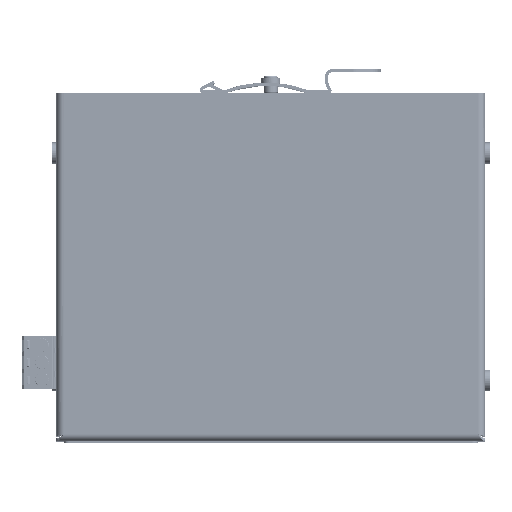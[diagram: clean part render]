
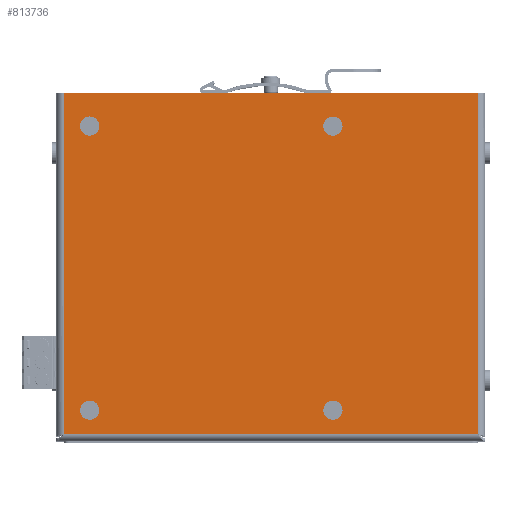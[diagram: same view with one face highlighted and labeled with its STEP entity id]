
A CAD part, top view. The second image highlights one B-rep face of the part: STEP entity #813736.
In plain terms, the highlighted planar face has unit normal (0, 0, 1).
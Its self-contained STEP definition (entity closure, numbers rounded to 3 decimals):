
#49378=FACE_BOUND('',#130745,.T.);
#49379=FACE_BOUND('',#130746,.T.);
#49380=FACE_BOUND('',#130747,.T.);
#49381=FACE_BOUND('',#130748,.T.);
#83209=FACE_OUTER_BOUND('',#130744,.T.);
#130744=EDGE_LOOP('',(#765880,#765881,#765882,#765883));
#130745=EDGE_LOOP('',(#765884));
#130746=EDGE_LOOP('',(#765885));
#130747=EDGE_LOOP('',(#765886));
#130748=EDGE_LOOP('',(#765887));
#191969=CIRCLE('',#959964,2.7);
#191971=CIRCLE('',#959967,2.7);
#191973=CIRCLE('',#959970,2.7);
#191975=CIRCLE('',#959973,2.7);
#265807=LINE('',#1571731,#340001);
#265810=LINE('',#1571741,#340004);
#265813=LINE('',#1571748,#340007);
#265814=LINE('',#1571750,#340008);
#340001=VECTOR('',#1225285,10.);
#340004=VECTOR('',#1225298,10.);
#340007=VECTOR('',#1225309,10.);
#340008=VECTOR('',#1225312,10.);
#466147=VERTEX_POINT('',#1571400);
#466149=VERTEX_POINT('',#1571406);
#466151=VERTEX_POINT('',#1571412);
#466153=VERTEX_POINT('',#1571418);
#466173=VERTEX_POINT('',#1571512);
#466183=VERTEX_POINT('',#1571687);
#466184=VERTEX_POINT('',#1571729);
#466186=VERTEX_POINT('',#1571740);
#602025=EDGE_CURVE('',#466147,#466147,#191969,.T.);
#602028=EDGE_CURVE('',#466149,#466149,#191971,.T.);
#602031=EDGE_CURVE('',#466151,#466151,#191973,.T.);
#602034=EDGE_CURVE('',#466153,#466153,#191975,.T.);
#602099=EDGE_CURVE('',#466183,#466184,#265807,.T.);
#602103=EDGE_CURVE('',#466186,#466173,#265810,.T.);
#602107=EDGE_CURVE('',#466173,#466183,#265813,.T.);
#602108=EDGE_CURVE('',#466186,#466184,#265814,.T.);
#765880=ORIENTED_EDGE('',*,*,#602099,.T.);
#765881=ORIENTED_EDGE('',*,*,#602108,.F.);
#765882=ORIENTED_EDGE('',*,*,#602103,.T.);
#765883=ORIENTED_EDGE('',*,*,#602107,.T.);
#765884=ORIENTED_EDGE('',*,*,#602025,.T.);
#765885=ORIENTED_EDGE('',*,*,#602028,.T.);
#765886=ORIENTED_EDGE('',*,*,#602031,.T.);
#765887=ORIENTED_EDGE('',*,*,#602034,.T.);
#779693=PLANE('',#960017);
#813736=ADVANCED_FACE('',(#83209,#49378,#49379,#49380,#49381),#779693,.T.);
#959964=AXIS2_PLACEMENT_3D('',#1571401,#1225148,#1225149);
#959967=AXIS2_PLACEMENT_3D('',#1571407,#1225155,#1225156);
#959970=AXIS2_PLACEMENT_3D('',#1571413,#1225162,#1225163);
#959973=AXIS2_PLACEMENT_3D('',#1571419,#1225169,#1225170);
#960017=AXIS2_PLACEMENT_3D('',#1571749,#1225310,#1225311);
#1225148=DIRECTION('center_axis',(0.,0.,-1.));
#1225149=DIRECTION('ref_axis',(1.,0.,0.));
#1225155=DIRECTION('center_axis',(0.,0.,-1.));
#1225156=DIRECTION('ref_axis',(1.,0.,0.));
#1225162=DIRECTION('center_axis',(0.,0.,-1.));
#1225163=DIRECTION('ref_axis',(1.,0.,0.));
#1225169=DIRECTION('center_axis',(0.,0.,-1.));
#1225170=DIRECTION('ref_axis',(1.,0.,0.));
#1225285=DIRECTION('',(0.,1.,0.));
#1225298=DIRECTION('',(0.,-1.,0.));
#1225309=DIRECTION('',(1.,0.,0.));
#1225310=DIRECTION('center_axis',(0.,0.,1.));
#1225311=DIRECTION('ref_axis',(1.,0.,0.));
#1225312=DIRECTION('',(1.,0.,0.));
#1571400=CARTESIAN_POINT('',(13.8,39.3,1.));
#1571401=CARTESIAN_POINT('Origin',(16.5,39.3,1.));
#1571406=CARTESIAN_POINT('',(13.8,-40.7,1.));
#1571407=CARTESIAN_POINT('Origin',(16.5,-40.7,1.));
#1571412=CARTESIAN_POINT('',(-54.7,-40.7,1.));
#1571413=CARTESIAN_POINT('Origin',(-52.,-40.7,1.));
#1571418=CARTESIAN_POINT('',(-54.7,39.3,1.));
#1571419=CARTESIAN_POINT('Origin',(-52.,39.3,1.));
#1571512=CARTESIAN_POINT('',(-59.35,-47.5,1.));
#1571687=CARTESIAN_POINT('',(57.35,-47.5,1.));
#1571729=CARTESIAN_POINT('',(57.35,48.5,1.));
#1571731=CARTESIAN_POINT('',(57.35,-24.,1.));
#1571740=CARTESIAN_POINT('',(-59.35,48.5,1.));
#1571741=CARTESIAN_POINT('',(-59.35,24.,1.));
#1571748=CARTESIAN_POINT('',(-30.175,-47.5,1.));
#1571749=CARTESIAN_POINT('Origin',(-1.,-0.5,
1.));
#1571750=CARTESIAN_POINT('',(59.35,48.5,1.));
